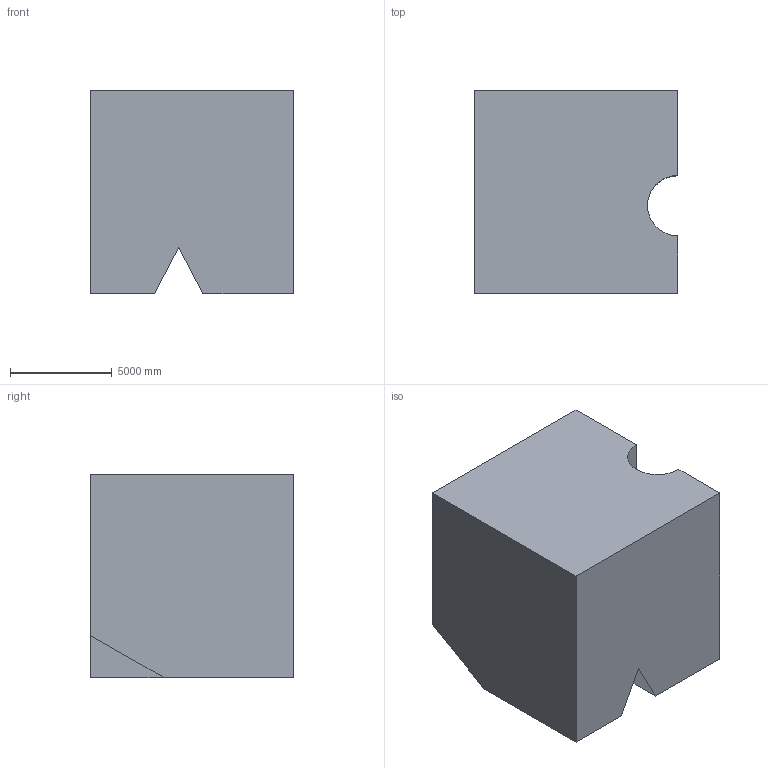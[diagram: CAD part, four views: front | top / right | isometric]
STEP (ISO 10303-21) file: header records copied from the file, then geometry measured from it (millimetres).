
FILE_DESCRIPTION (( 'STEP AP203' ), '1' );
FILE_NAME ('1201.STEP', '2022-08-18T13:09:39', ( 'user' ), ( '' ), 'SwSTEP 2.0', 'SolidWorks 2021', '' );
FILE_SCHEMA (( 'CONFIG_CONTROL_DESIGN' ));
Length unit declared in the file: centimetre
Products named in the file (1): 1201
Bounding box: 10000 x 10000 x 10000 mm (x, y, z)
Volume: 914504544046.4 mm3; surface area: 617467576.3 mm2
Topology: 1 solids, 1 shells, 15 faces, 39 edges, 26 vertices
Faces by surface type: plane 13, cylinder 2
Entity records: 534 total; most frequent: CARTESIAN_POINT 81, ORIENTED_EDGE 78, DIRECTION 75, EDGE_CURVE 39, VECTOR 35, LINE 35, VERTEX_POINT 26, AXIS2_PLACEMENT_3D 20
